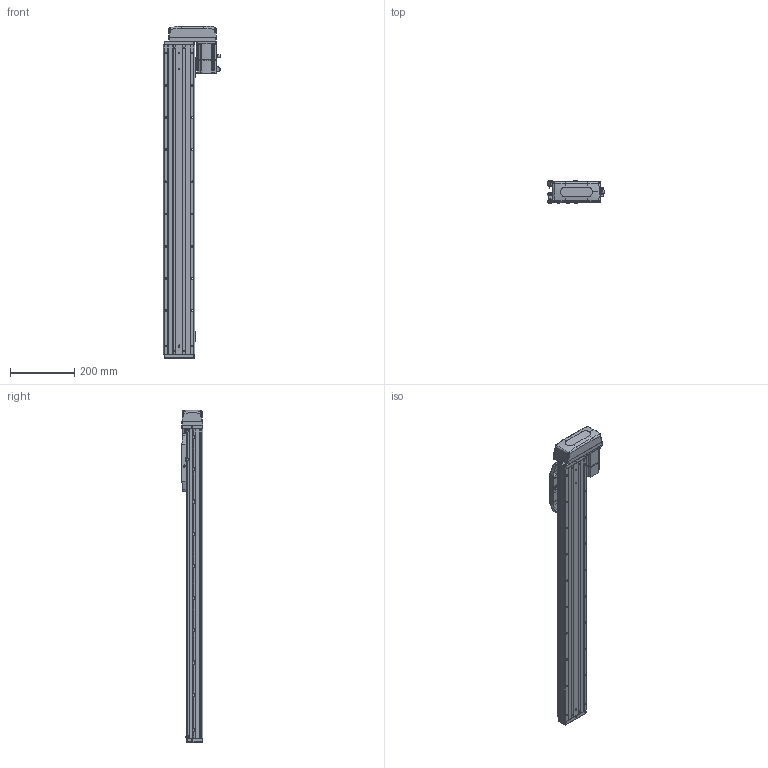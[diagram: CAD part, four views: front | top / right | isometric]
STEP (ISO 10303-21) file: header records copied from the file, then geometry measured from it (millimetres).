
FILE_DESCRIPTION (( 'STEP AP203' ), '1' );
FILE_NAME ('CTHA100-750-BL-M20-C4L.step', '2022-07-06T08:58:32', ( '微软用户' ), ( '微软中国' ), 'SwSTEP 2.0', 'SolidWorks 2020', '' );
FILE_SCHEMA (( 'CONFIG_CONTROL_DESIGN' ));
Length unit declared in the file: millimetre
Products named in the file (19): CTHA60-017; CTHA100-002; CTHA60-021; CTHA100-031; KTHA100-001_960; GBT77-2000 M3×3; CTHA86-030; KTHA100-004; GBT 70.1-M3℅6; GBT 70.3-M3℅6; KTHA100-005; GBT70.1 M5℅16; CTHA86-015-1_CTHA86-015-2; GB¨uT 70.2-M3¡Á5_M3¡Á6; CTHA100-750-BL-M20-C4L; CTHA60-016; CTHA86-033; EE_SX911P_R; _X2_4E0983F1_X0_200W_1
Assembly tree (64 placements, depth 2):
  CTHA100-750-BL-M20-C4L
    KTHA100-001_960
    KTHA100-004
    KTHA100-005
    GB¨uT 70.2-M3¡Á5_M3¡Á6  x10
    EE_SX911P_R  x3
    CTHA60-017  x3
    CTHA60-021  x2
    GBT77-2000 M3×3  x6
    GBT 70.1-M3℅6  x10
    GBT70.1 M5℅16  x14
    CTHA60-016  x2
    _X2_4E0983F1_X0_200W_1
    CTHA100-002
    CTHA100-031
    CTHA86-030  x2
    GBT 70.3-M3℅6  x4
    CTHA86-015-1_CTHA86-015-2
    CTHA86-033
Bounding box: 177.7 x 68 x 1031 mm (x, y, z)
Volume: 4248510.8 mm3; surface area: 711663.7 mm2
Topology: 66 solids, 66 shells, 2709 faces, 6527 edges, 4048 vertices
Faces by surface type: plane 1416, cylinder 713, cone 357, torus 124, bspline 75, sphere 24
Entity records: 47284 total; most frequent: CARTESIAN_POINT 9259, DIRECTION 7314, ORIENTED_EDGE 7170, EDGE_CURVE 3585, AXIS2_PLACEMENT_3D 2475, LINE 2364, VECTOR 2364, VERTEX_POINT 2268
